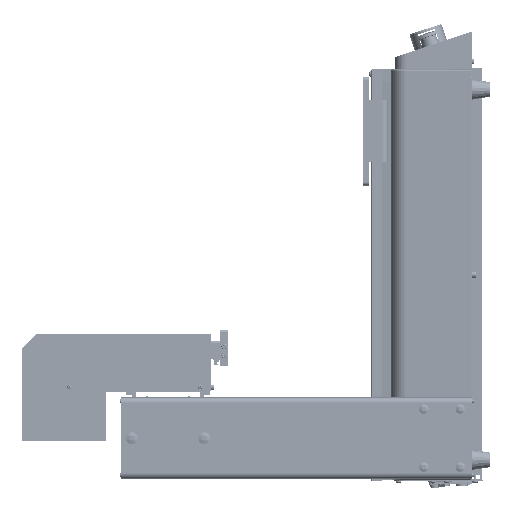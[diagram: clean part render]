
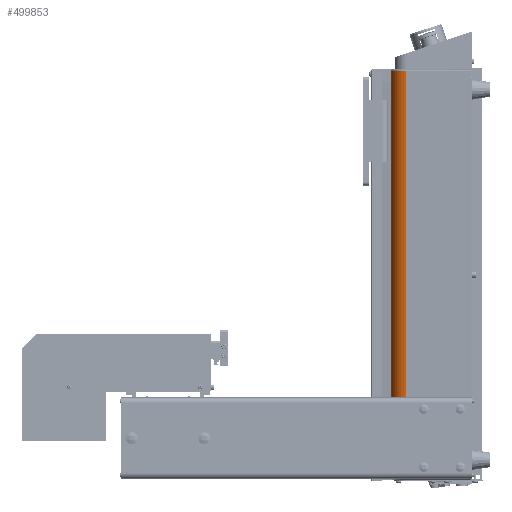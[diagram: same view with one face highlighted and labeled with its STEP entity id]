
A CAD part, left-side view. The second image highlights one B-rep face of the part: STEP entity #499853.
In plain terms, the highlighted cylindrical face has radius 22 mm (diameter 44 mm), a partial arc.
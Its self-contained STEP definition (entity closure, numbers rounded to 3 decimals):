
#369390 = PLANE('',#369391);
#369391 = AXIS2_PLACEMENT_3D('',#369392,#369393,#369394);
#369392 = CARTESIAN_POINT('',(96.95,377.939,
    670.096));
#369393 = DIRECTION('',(0.999,-0.044,0.));
#369394 = DIRECTION('',(0.044,0.999,0.));
#477921 = VERTEX_POINT('',#477922);
#477922 = CARTESIAN_POINT('',(96.95,377.939,
    668.096));
#477942 = TOROIDAL_SURFACE('',#477943,20.,2.);
#477943 = AXIS2_PLACEMENT_3D('',#477944,#477945,#477946);
#477944 = CARTESIAN_POINT('',(118.929,376.979,
    668.096));
#477945 = DIRECTION('',(0.,0.,-1.));
#477946 = DIRECTION('',(-1.,0.,0.));
#478051 = VERTEX_POINT('',#478052);
#478052 = CARTESIAN_POINT('',(118.929,398.979,
    668.096));
#478079 = EDGE_CURVE('',#477921,#478051,#478080,.T.);
#478080 = SURFACE_CURVE('',#478081,(#478086,#478093),.PCURVE_S1.);
#478081 = CIRCLE('',#478082,22.);
#478082 = AXIS2_PLACEMENT_3D('',#478083,#478084,#478085);
#478083 = CARTESIAN_POINT('',(118.929,376.979,
    668.096));
#478084 = DIRECTION('',(0.,0.,-1.));
#478085 = DIRECTION('',(-1.,0.,0.));
#478086 = PCURVE('',#477942,#478087);
#478087 = DEFINITIONAL_REPRESENTATION('',(#478088),#478092);
#478088 = LINE('',#478089,#478090);
#478089 = CARTESIAN_POINT('',(0.,6.283));
#478090 = VECTOR('',#478091,1.);
#478091 = DIRECTION('',(1.,0.));
#478092 = ( GEOMETRIC_REPRESENTATION_CONTEXT(2) 
PARAMETRIC_REPRESENTATION_CONTEXT() REPRESENTATION_CONTEXT('2D SPACE',''
  ) );
#478093 = PCURVE('',#478094,#478099);
#478094 = CYLINDRICAL_SURFACE('',#478095,22.);
#478095 = AXIS2_PLACEMENT_3D('',#478096,#478097,#478098);
#478096 = CARTESIAN_POINT('',(118.929,376.979,
    670.096));
#478097 = DIRECTION('',(0.,0.,-1.));
#478098 = DIRECTION('',(-1.,0.,0.));
#478099 = DEFINITIONAL_REPRESENTATION('',(#478100),#478104);
#478100 = LINE('',#478101,#478102);
#478101 = CARTESIAN_POINT('',(0.,2.));
#478102 = VECTOR('',#478103,1.);
#478103 = DIRECTION('',(1.,0.));
#478104 = ( GEOMETRIC_REPRESENTATION_CONTEXT(2) 
PARAMETRIC_REPRESENTATION_CONTEXT() REPRESENTATION_CONTEXT('2D SPACE',''
  ) );
#478199 = PLANE('',#478200);
#478200 = AXIS2_PLACEMENT_3D('',#478201,#478202,#478203);
#478201 = CARTESIAN_POINT('',(597.203,398.979,
    670.096));
#478202 = DIRECTION('',(0.,-1.,0.));
#478203 = DIRECTION('',(0.,0.,-1.));
#478237 = VERTEX_POINT('',#478238);
#478238 = CARTESIAN_POINT('',(96.95,377.939,
    107.096));
#478260 = TOROIDAL_SURFACE('',#478261,20.,2.);
#478261 = AXIS2_PLACEMENT_3D('',#478262,#478263,#478264);
#478262 = CARTESIAN_POINT('',(118.929,376.979,
    107.096));
#478263 = DIRECTION('',(0.,0.,-1.));
#478264 = DIRECTION('',(-1.,0.,0.));
#478367 = VERTEX_POINT('',#478368);
#478368 = CARTESIAN_POINT('',(118.929,398.979,
    107.096));
#478420 = EDGE_CURVE('',#478367,#478237,#478421,.T.);
#478421 = SURFACE_CURVE('',#478422,(#478427,#478434),.PCURVE_S1.);
#478422 = CIRCLE('',#478423,22.);
#478423 = AXIS2_PLACEMENT_3D('',#478424,#478425,#478426);
#478424 = CARTESIAN_POINT('',(118.929,376.979,
    107.096));
#478425 = DIRECTION('',(0.,0.,1.));
#478426 = DIRECTION('',(-1.,0.,0.));
#478427 = PCURVE('',#478260,#478428);
#478428 = DEFINITIONAL_REPRESENTATION('',(#478429),#478433);
#478429 = LINE('',#478430,#478431);
#478430 = CARTESIAN_POINT('',(6.283,0.));
#478431 = VECTOR('',#478432,1.);
#478432 = DIRECTION('',(-1.,0.));
#478433 = ( GEOMETRIC_REPRESENTATION_CONTEXT(2) 
PARAMETRIC_REPRESENTATION_CONTEXT() REPRESENTATION_CONTEXT('2D SPACE',''
  ) );
#478434 = PCURVE('',#478094,#478435);
#478435 = DEFINITIONAL_REPRESENTATION('',(#478436),#478440);
#478436 = LINE('',#478437,#478438);
#478437 = CARTESIAN_POINT('',(6.283,563.));
#478438 = VECTOR('',#478439,1.);
#478439 = DIRECTION('',(-1.,0.));
#478440 = ( GEOMETRIC_REPRESENTATION_CONTEXT(2) 
PARAMETRIC_REPRESENTATION_CONTEXT() REPRESENTATION_CONTEXT('2D SPACE',''
  ) );
#499853 = ADVANCED_FACE('',(#499854),#478094,.T.);
#499854 = FACE_BOUND('',#499855,.T.);
#499855 = EDGE_LOOP('',(#499856,#499877,#499878,#499899));
#499856 = ORIENTED_EDGE('',*,*,#499857,.T.);
#499857 = EDGE_CURVE('',#478051,#478367,#499858,.T.);
#499858 = SURFACE_CURVE('',#499859,(#499863,#499870),.PCURVE_S1.);
#499859 = LINE('',#499860,#499861);
#499860 = CARTESIAN_POINT('',(118.929,398.979,
    670.096));
#499861 = VECTOR('',#499862,1.);
#499862 = DIRECTION('',(0.,0.,-1.));
#499863 = PCURVE('',#478094,#499864);
#499864 = DEFINITIONAL_REPRESENTATION('',(#499865),#499869);
#499865 = LINE('',#499866,#499867);
#499866 = CARTESIAN_POINT('',(1.571,0.));
#499867 = VECTOR('',#499868,1.);
#499868 = DIRECTION('',(0.,1.));
#499869 = ( GEOMETRIC_REPRESENTATION_CONTEXT(2) 
PARAMETRIC_REPRESENTATION_CONTEXT() REPRESENTATION_CONTEXT('2D SPACE',''
  ) );
#499870 = PCURVE('',#478199,#499871);
#499871 = DEFINITIONAL_REPRESENTATION('',(#499872),#499876);
#499872 = LINE('',#499873,#499874);
#499873 = CARTESIAN_POINT('',(0.,-478.274));
#499874 = VECTOR('',#499875,1.);
#499875 = DIRECTION('',(1.,0.));
#499876 = ( GEOMETRIC_REPRESENTATION_CONTEXT(2) 
PARAMETRIC_REPRESENTATION_CONTEXT() REPRESENTATION_CONTEXT('2D SPACE',''
  ) );
#499877 = ORIENTED_EDGE('',*,*,#478420,.T.);
#499878 = ORIENTED_EDGE('',*,*,#499879,.F.);
#499879 = EDGE_CURVE('',#477921,#478237,#499880,.T.);
#499880 = SURFACE_CURVE('',#499881,(#499885,#499892),.PCURVE_S1.);
#499881 = LINE('',#499882,#499883);
#499882 = CARTESIAN_POINT('',(96.95,377.939,
    670.096));
#499883 = VECTOR('',#499884,1.);
#499884 = DIRECTION('',(0.,0.,-1.));
#499885 = PCURVE('',#478094,#499886);
#499886 = DEFINITIONAL_REPRESENTATION('',(#499887),#499891);
#499887 = LINE('',#499888,#499889);
#499888 = CARTESIAN_POINT('',(0.044,0.));
#499889 = VECTOR('',#499890,1.);
#499890 = DIRECTION('',(0.,1.));
#499891 = ( GEOMETRIC_REPRESENTATION_CONTEXT(2) 
PARAMETRIC_REPRESENTATION_CONTEXT() REPRESENTATION_CONTEXT('2D SPACE',''
  ) );
#499892 = PCURVE('',#369390,#499893);
#499893 = DEFINITIONAL_REPRESENTATION('',(#499894),#499898);
#499894 = LINE('',#499895,#499896);
#499895 = CARTESIAN_POINT('',(0.,0.));
#499896 = VECTOR('',#499897,1.);
#499897 = DIRECTION('',(0.,-1.));
#499898 = ( GEOMETRIC_REPRESENTATION_CONTEXT(2) 
PARAMETRIC_REPRESENTATION_CONTEXT() REPRESENTATION_CONTEXT('2D SPACE',''
  ) );
#499899 = ORIENTED_EDGE('',*,*,#478079,.T.);
